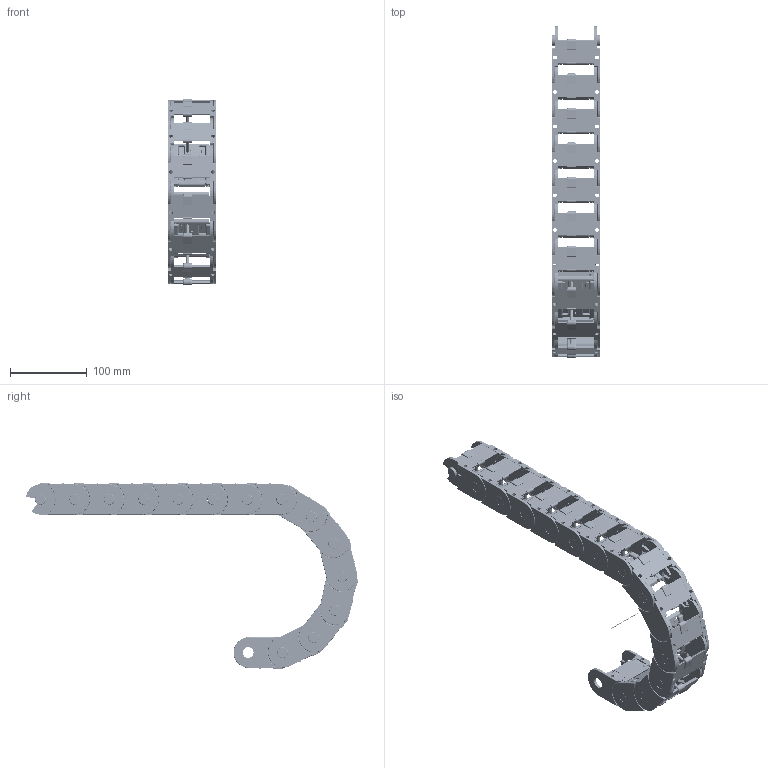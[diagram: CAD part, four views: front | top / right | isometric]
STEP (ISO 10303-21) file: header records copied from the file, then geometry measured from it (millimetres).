
FILE_DESCRIPTION((''),'2;1');
FILE_NAME('C:\Uebbing\PARAMETERKETTEN\KOLIBRI\Kol_40_062_2\Kol_40_062_2_R100.stp','2012-03-05T13:17:57',('Uebbing'),(''),'Autodesk Inventor 10','Autodesk Inventor 10','');
FILE_SCHEMA(('AUTOMOTIVE_DESIGN { 1 0 10303 214 1 1 1 1 }'));
Length unit declared in the file: millimetre
Products named in the file (6): KOLIBRI 40_062_2_PARAMETRISCH; Achse; Kol_40_062_2; Kol_40_062_2_PZ; Kol_40_062_2_Klappsteg
Assembly tree (18 placements, depth 3):
  KOLIBRI 40_062_2_PARAMETRISCH
    Achse
    Kol_40_062_2  x14
      Kol_40_062_2_PZ
      Kol_40_062_2
      Kol_40_062_2_Klappsteg
Bounding box: 63 x 433.12 x 242.97 mm (x, y, z)
Volume: 490393.7 mm3; surface area: 358330.9 mm2
Topology: 43 solids, 141 shells, 15235 faces, 40352 edges, 26085 vertices
Faces by surface type: bspline 6482, plane 5812, cylinder 2437, torus 308, sphere 140, cone 56
Full cylindrical faces by diameter (mm): 1 x1, 1.609 x14, 2.825 x14, 3.4 x56, 3.5 x28, 4 x56, 5 x14, 6 x14, 14 x14, 14.1 x14
Entity records: 38355 total; most frequent: CARTESIAN_POINT 13154, ORIENTED_EDGE 5674, DIRECTION 4295, EDGE_CURVE 2837, VERTEX_POINT 1853, VECTOR 1759, LINE 1759, AXIS2_PLACEMENT_3D 1268
